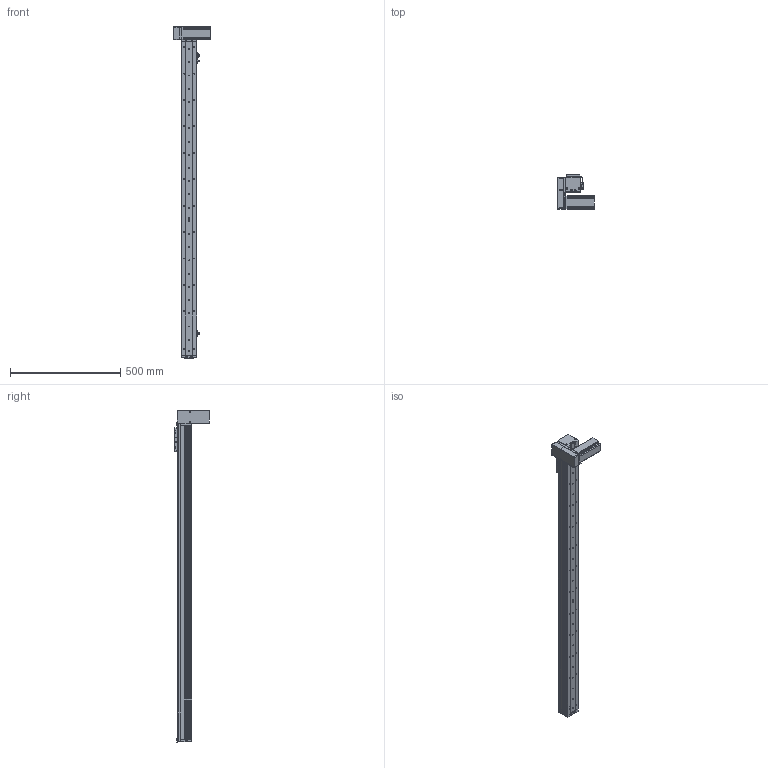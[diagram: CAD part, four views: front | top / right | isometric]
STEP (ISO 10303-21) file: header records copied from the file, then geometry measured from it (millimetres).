
FILE_DESCRIPTION (( 'STEP AP214' ), '1' );
FILE_NAME ('KSD68BS-S1250-MRD-CR.STEP', '2019-11-08T03:37:12', ( '微软用户' ), ( '微软中国' ), 'SwSTEP 2.0', 'SolidWorks 2014', '' );
FILE_SCHEMA (( 'AUTOMOTIVE_DESIGN' ));
Length unit declared in the file: millimetre
Products named in the file (14): 悵誘欶奻狟殏; 68宽马达安装板连板上折同步带; 感应片68宽全封闭; U倰嫖萇EEㄜSX672; 台达ECMA－C20604AS伺服电机（400W); KSD68BS 1250行程底板全封闭; KSD68BS 1250行程盖板全封闭; KSD68BS-S1250-MRD-CR; 68宽单导轨全封闭丝杆传动安装板1防护罩; KSD68BS 1250行程侧板全封闭; 68宽单导轨全封闭同步带端板; 68遵裔啣揤啣1; 68单导轨全封闭同步带电机座右; 68单导轨全封闭同步带安装板
Assembly tree (17 placements, depth 2):
  KSD68BS-S1250-MRD-CR
    KSD68BS 1250行程底板全封闭
    台达ECMA－C20604AS伺服电机（400W)
    U倰嫖萇EEㄜSX672  x3
    感应片68宽全封闭
    68宽马达安装板连板上折同步带
    悵誘欶奻狟殏
    68单导轨全封闭同步带安装板
    68单导轨全封闭同步带电机座右
    68宽单导轨全封闭同步带端板
    KSD68BS 1250行程侧板全封闭  x2
    68宽单导轨全封闭丝杆传动安装板1防护罩
    68遵裔啣揤啣1  x2
    KSD68BS 1250行程盖板全封闭
Bounding box: 167.2 x 155.5 x 1508.1 mm (x, y, z)
Volume: 2873973.2 mm3; surface area: 1131014 mm2
Topology: 18 solids, 18 shells, 1550 faces, 4435 edges, 2833 vertices
Faces by surface type: cylinder 747, plane 631, cone 172
Entity records: 49702 total; most frequent: CARTESIAN_POINT 8559, DIRECTION 7427, ORIENTED_EDGE 7106, EDGE_CURVE 3553, AXIS2_PLACEMENT_3D 2691, VERTEX_POINT 2331, LINE 2045, VECTOR 2045
